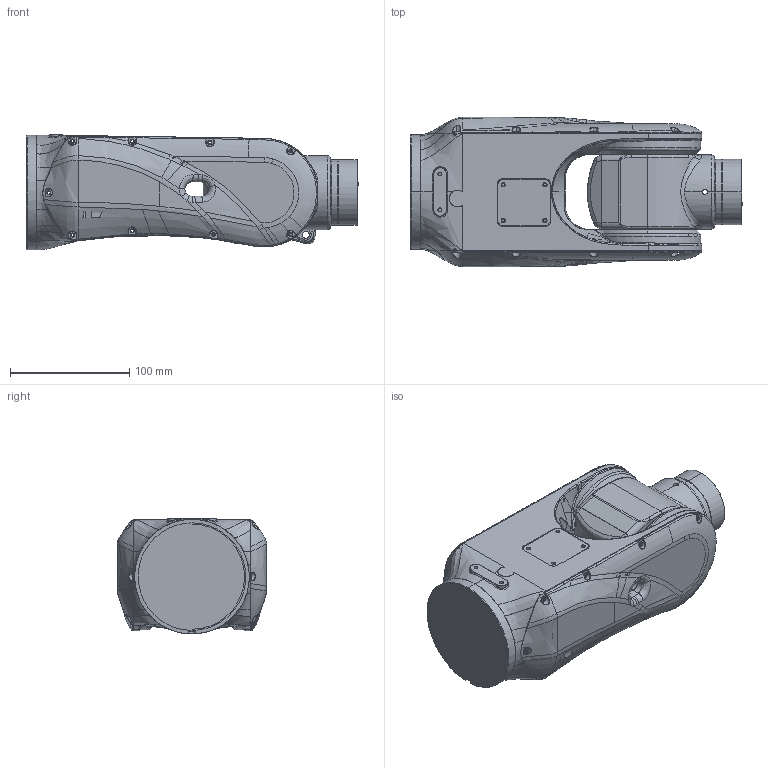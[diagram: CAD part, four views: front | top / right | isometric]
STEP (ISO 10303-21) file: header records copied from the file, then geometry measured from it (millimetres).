
FILE_DESCRIPTION (( 'STEP AP214' ), '1' );
FILE_NAME ('两公斤机械手-5.6轴.STEP', '2022-12-29T12:48:05', ( '微软用户' ), ( '微软中国' ), 'SwSTEP 2.0', 'SolidWorks 2020', '' );
FILE_SCHEMA (( 'AUTOMOTIVE_DESIGN' ));
Length unit declared in the file: millimetre
Products named in the file (1): 謗鼠踝儂迮忒-5.6粣
Bounding box: 278 x 125 x 96.91 mm (x, y, z)
Surface area: 161244.7 mm2 (no closed solid volume)
Topology: 0 solids, 216 shells, 761 faces, 3267 edges, 2653 vertices
Faces by surface type: bspline 330, cylinder 245, plane 108, torus 39, cone 39
Entity records: 83548 total; most frequent: CARTESIAN_POINT 53594, ORIENTED_EDGE 4497, EDGE_CURVE 3253, DIRECTION 2913, VERTEX_POINT 2653, B_SPLINE_CURVE_WITH_KNOTS 1841, AXIS2_PLACEMENT_3D 1131, EDGE_LOOP 893
